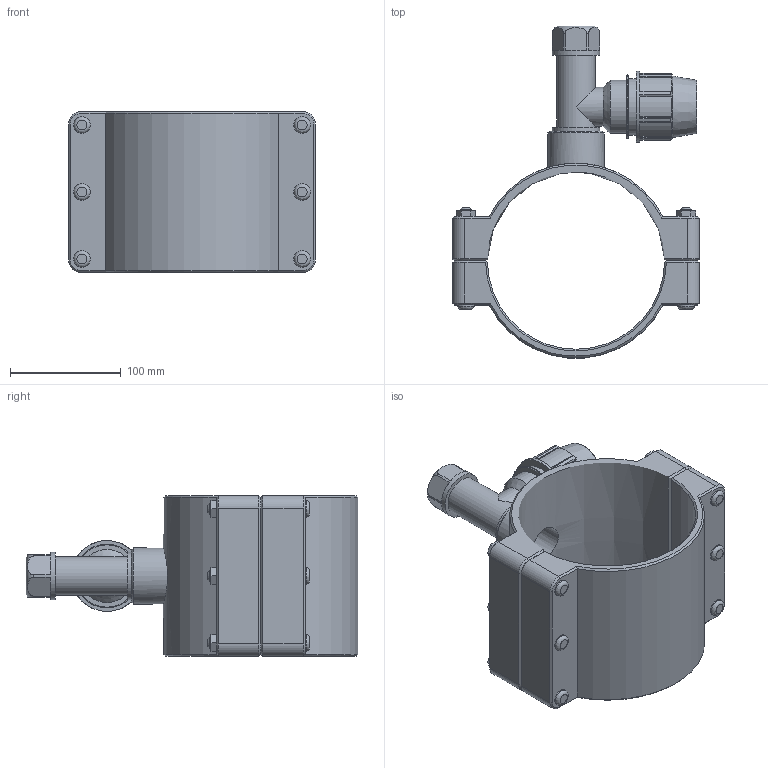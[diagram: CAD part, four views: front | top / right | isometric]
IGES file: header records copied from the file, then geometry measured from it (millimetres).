
Global section: file name: 165400160032_165406160032.ipt; native system: Autodesk Inventor 2015; preprocessor: unknown; author: KIM; date: 20170618.093956; units: millimetre
Bounding box: 223 x 299.69 x 145 mm (x, y, z)
Volume: 1426501.5 mm3; surface area: 261839.7 mm2
Topology: 1 solids, 1 shells, 260 faces, 648 edges, 422 vertices
Faces by surface type: plane 163, cylinder 48, cone 30, revolution 19
Full cylindrical faces by diameter (mm): 10 x6, 15 x12, 35.057 x2, 38.952 x1, 42.847 x2, 48 x1, 50.638 x1, 51.2 x1, 57.6 x1, 64 x1
